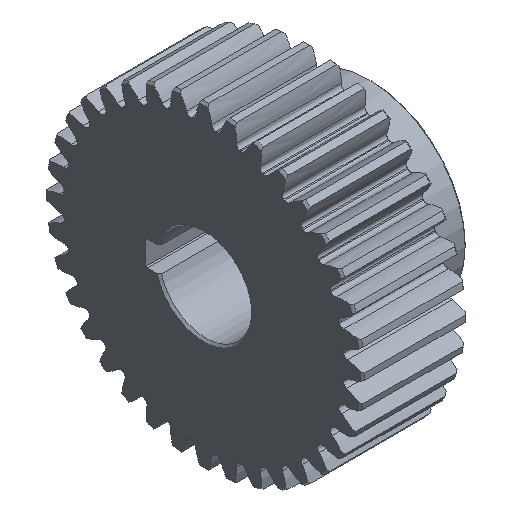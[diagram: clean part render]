
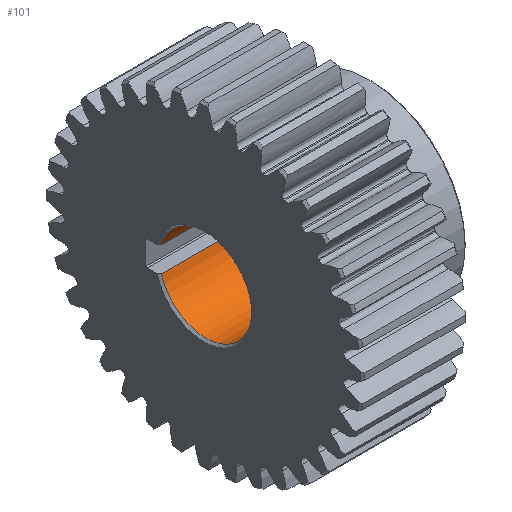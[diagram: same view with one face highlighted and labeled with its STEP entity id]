
A CAD part, isometric view. The second image highlights one B-rep face of the part: STEP entity #101.
In plain terms, the highlighted cylindrical face has radius 11 mm (diameter 22 mm), a partial arc.
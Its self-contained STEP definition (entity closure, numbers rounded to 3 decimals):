
#101=ADVANCED_FACE('',(#2837,#2839),#2841,.F.);
#2837=FACE_BOUND('',#2838,.T.);
#2838=EDGE_LOOP('',(#5038,#5039,#5040,#5041));
#2839=FACE_BOUND('',#2840,.T.);
#2840=EDGE_LOOP('',(#5042));
#2841=CYLINDRICAL_SURFACE('',#2842,11.);
#2842=AXIS2_PLACEMENT_3D('',#2843,#2844,#2845);
#2843=CARTESIAN_POINT('',(0.,0.,0.));
#2844=DIRECTION('',(1.,0.,0.));
#2845=DIRECTION('',(0.,-0.,1.));
#5038=ORIENTED_EDGE('',*,*,#7978,.T.);
#5039=ORIENTED_EDGE('',*,*,#7977,.F.);
#5040=ORIENTED_EDGE('',*,*,#7979,.T.);
#5041=ORIENTED_EDGE('',*,*,#7973,.F.);
#5042=ORIENTED_EDGE('',*,*,#7980,.T.);
#7973=EDGE_CURVE('',#9098,#9100,#9101,.T.);
#7977=EDGE_CURVE('',#9105,#9103,#9107,.F.);
#7978=EDGE_CURVE('',#9098,#9103,#9108,.T.);
#7979=EDGE_CURVE('',#9105,#9100,#9109,.F.);
#7980=EDGE_CURVE('',#9110,#9110,#9111,.T.);
#9098=VERTEX_POINT('',#11406);
#9100=VERTEX_POINT('',#11413);
#9101=CIRCLE('',#11414,11.);
#9103=VERTEX_POINT('',#11424);
#9105=VERTEX_POINT('',#11431);
#9107=CIRCLE('',#11438,11.);
#9108=LINE('',#11442,#11443);
#9109=LINE('',#11445,#11446);
#9110=VERTEX_POINT('',#11448);
#9111=B_SPLINE_CURVE_WITH_KNOTS('',3,
(#11449,#11450,#11451,#11452,#11453,#11454,#11455,#11456,#11457,#11458,#11459,#11460,
#11461,#11462,#11463,#11464,#11465,#11466,#11467,#11468,#11469,#11470,#11471,#11472,
#11473,#11474,#11475,#11476,#11477,#11478,#11479,#11480,#11481,#11482,#11483,#11484,
#11485,#11486,#11487,#11488,#11489,#11490,#11491,#11492,#11493,#11494,#11495,#11496,
#11497,#11498,#11499,#11500,#11501,#11502,#11503,#11504,#11505,#11506,#11507,#11508,
#11509,#11510,#11511,#11512,#11513,#11514,#11515,#11516),
.UNSPECIFIED.,.T.,.F.,
(4,1,1,1,1,1,1,1,1,1,1,1,1,1,1,1,1,1,1,1,1,1,1,1,1,1,1,1,1,1,1,1,1,1,1,1,1,1,1,1,
1,1,1,1,1,1,1,1,1,1,1,1,1,1,1,1,1,1,1,1,1,1,1,1,1,4),
(0.,0.009,0.018,0.027,0.041,
0.055,0.069,0.082,0.095,0.109,
0.125,0.141,0.158,0.176,0.194,
0.212,0.228,0.243,0.257,0.271,
0.285,0.298,0.312,0.332,0.353,
0.374,0.391,0.408,0.423,0.438,
0.453,0.467,0.479,0.491,0.504,
0.517,0.527,0.538,0.553,0.571,
0.589,0.604,0.618,0.634,0.651,
0.67,0.69,0.709,0.728,0.747,
0.764,0.781,0.796,0.81,0.828,
0.848,0.869,0.886,0.903,0.918,
0.932,0.948,0.962,0.975,0.986,
1.),
.UNSPECIFIED.);
#11406=CARTESIAN_POINT('',(0.5,10.583,3.));
#11413=CARTESIAN_POINT('',(0.5,10.583,-3.));
#11414=AXIS2_PLACEMENT_3D('',#11415,#11416,#11417);
#11415=CARTESIAN_POINT('',(0.5,0.,0.));
#11416=DIRECTION('',(1.,0.,0.));
#11417=DIRECTION('',(0.,0.962,0.273));
#11424=CARTESIAN_POINT('',(39.5,10.583,3.));
#11431=CARTESIAN_POINT('',(39.5,10.583,-3.));
#11438=AXIS2_PLACEMENT_3D('',#11439,#11440,#11441);
#11439=CARTESIAN_POINT('',(39.5,0.,0.));
#11440=DIRECTION('',(1.,0.,0.));
#11441=DIRECTION('',(0.,0.962,0.273));
#11442=CARTESIAN_POINT('',(0.5,10.583,3.));
#11443=VECTOR('',#11444,1.);
#11444=DIRECTION('',(1.,0.,0.));
#11445=CARTESIAN_POINT('',(0.5,10.583,-3.));
#11446=VECTOR('',#11447,1.);
#11447=DIRECTION('',(1.,0.,0.));
#11448=CARTESIAN_POINT('',(36.229,-5.5,-9.526));
#11449=CARTESIAN_POINT('',(36.229,-5.5,-9.526));
#11450=CARTESIAN_POINT('',(36.229,-5.537,-9.505));
#11451=CARTESIAN_POINT('',(36.227,-5.61,-9.462));
#11452=CARTESIAN_POINT('',(36.216,-5.72,-9.396));
#11453=CARTESIAN_POINT('',(36.195,-5.844,-9.32));
#11454=CARTESIAN_POINT('',(36.158,-5.984,-9.23));
#11455=CARTESIAN_POINT('',(36.1,-6.141,-9.127));
#11456=CARTESIAN_POINT('',(36.027,-6.289,-9.025));
#11457=CARTESIAN_POINT('',(35.941,-6.426,-8.928));
#11458=CARTESIAN_POINT('',(35.843,-6.554,-8.835));
#11459=CARTESIAN_POINT('',(35.724,-6.682,-8.738));
#11460=CARTESIAN_POINT('',(35.579,-6.811,-8.638));
#11461=CARTESIAN_POINT('',(35.409,-6.932,-8.541));
#11462=CARTESIAN_POINT('',(35.215,-7.042,-8.45));
#11463=CARTESIAN_POINT('',(35.001,-7.138,-8.37));
#11464=CARTESIAN_POINT('',(34.77,-7.215,-8.303));
#11465=CARTESIAN_POINT('',(34.535,-7.27,-8.255));
#11466=CARTESIAN_POINT('',(34.31,-7.302,-8.226));
#11467=CARTESIAN_POINT('',(34.098,-7.317,-8.214));
#11468=CARTESIAN_POINT('',(33.898,-7.317,-8.214));
#11469=CARTESIAN_POINT('',(33.705,-7.303,-8.226));
#11470=CARTESIAN_POINT('',(33.517,-7.278,-8.248));
#11471=CARTESIAN_POINT('',(33.332,-7.24,-8.281));
#11472=CARTESIAN_POINT('',(33.123,-7.182,-8.332));
#11473=CARTESIAN_POINT('',(32.893,-7.096,-8.406));
#11474=CARTESIAN_POINT('',(32.65,-6.971,-8.51));
#11475=CARTESIAN_POINT('',(32.442,-6.829,-8.624));
#11476=CARTESIAN_POINT('',(32.27,-6.677,-8.742));
#11477=CARTESIAN_POINT('',(32.135,-6.529,-8.853));
#11478=CARTESIAN_POINT('',(32.025,-6.377,-8.964));
#11479=CARTESIAN_POINT('',(31.935,-6.219,-9.074));
#11480=CARTESIAN_POINT('',(31.866,-6.058,-9.182));
#11481=CARTESIAN_POINT('',(31.818,-5.9,-9.285));
#11482=CARTESIAN_POINT('',(31.788,-5.751,-9.377));
#11483=CARTESIAN_POINT('',(31.772,-5.606,-9.465));
#11484=CARTESIAN_POINT('',(31.769,-5.455,-9.553));
#11485=CARTESIAN_POINT('',(31.78,-5.307,-9.635));
#11486=CARTESIAN_POINT('',(31.802,-5.165,-9.712));
#11487=CARTESIAN_POINT('',(31.838,-5.016,-9.79));
#11488=CARTESIAN_POINT('',(31.895,-4.842,-9.878));
#11489=CARTESIAN_POINT('',(31.984,-4.646,-9.972));
#11490=CARTESIAN_POINT('',(32.098,-4.455,-10.058));
#11491=CARTESIAN_POINT('',(32.225,-4.286,-10.131));
#11492=CARTESIAN_POINT('',(32.361,-4.135,-10.194));
#11493=CARTESIAN_POINT('',(32.518,-3.99,-10.251));
#11494=CARTESIAN_POINT('',(32.707,-3.847,-10.306));
#11495=CARTESIAN_POINT('',(32.928,-3.715,-10.354));
#11496=CARTESIAN_POINT('',(33.173,-3.603,-10.393));
#11497=CARTESIAN_POINT('',(33.432,-3.521,-10.421));
#11498=CARTESIAN_POINT('',(33.695,-3.471,-10.438));
#11499=CARTESIAN_POINT('',(33.95,-3.452,-10.444));
#11500=CARTESIAN_POINT('',(34.194,-3.46,-10.442));
#11501=CARTESIAN_POINT('',(34.42,-3.491,-10.431));
#11502=CARTESIAN_POINT('',(34.628,-3.54,-10.415));
#11503=CARTESIAN_POINT('',(34.839,-3.61,-10.391));
#11504=CARTESIAN_POINT('',(35.062,-3.709,-10.356));
#11505=CARTESIAN_POINT('',(35.298,-3.849,-10.305));
#11506=CARTESIAN_POINT('',(35.507,-4.01,-10.244));
#11507=CARTESIAN_POINT('',(35.683,-4.18,-10.175));
#11508=CARTESIAN_POINT('',(35.824,-4.347,-10.105));
#11509=CARTESIAN_POINT('',(35.94,-4.515,-10.031));
#11510=CARTESIAN_POINT('',(36.036,-4.688,-9.952));
#11511=CARTESIAN_POINT('',(36.112,-4.861,-9.868));
#11512=CARTESIAN_POINT('',(36.167,-5.032,-9.782));
#11513=CARTESIAN_POINT('',(36.202,-5.187,-9.7));
#11514=CARTESIAN_POINT('',(36.224,-5.342,-9.616));
#11515=CARTESIAN_POINT('',(36.229,-5.444,-9.558));
#11516=CARTESIAN_POINT('',(36.229,-5.5,-9.526));
